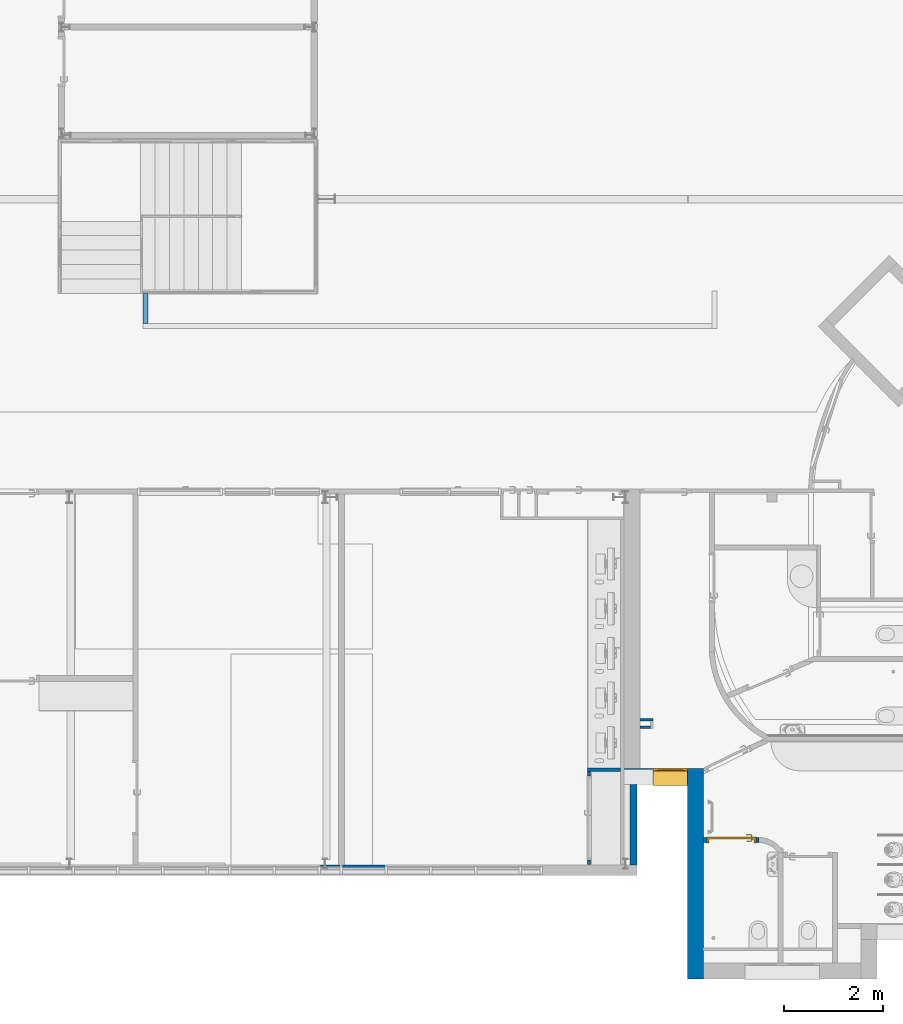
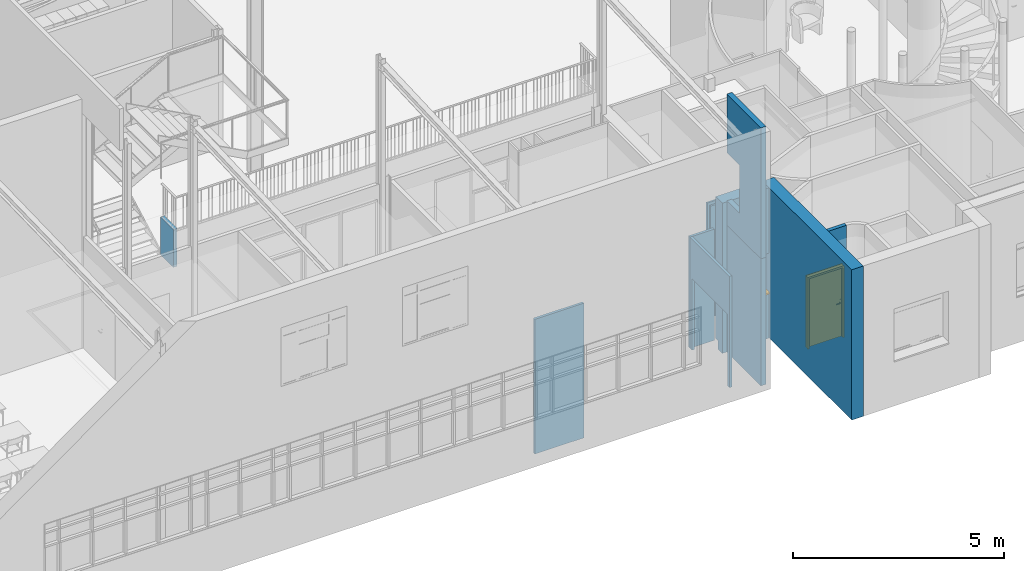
# One storey, part 40 of 137: 11 walls, 1 door, 1 window, 4 openings.
"""IFC2X3 building model written with IfcOpenShell, lengths in centimetres."""

from ifc_helpers import new_model, entity, si_unit, converted_unit, derived_unit, direction, frame, frame_2d, origin, place, context, subcontext, project, spatial, polyline, rectangle, outline, extrude, clip, bounded_halfspace, faceted_brep, source, transform, mapped, material, material_list, layer, layer_set, layer_usage, type_object, type_shapes, element, fill, save


model = new_model("IFC2X3")

# Units and contexts
model_context = context("Model", 3, precision=0.001, world=origin(), true_north=direction((6.12303176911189e-17, 1.0)))
body_context = subcontext(model_context, "Body", "Model", "MODEL_VIEW")
ifc_project = project(units=[si_unit("LENGTHUNIT", "METRE", prefix="CENTI"), si_unit("AREAUNIT", "SQUARE_METRE"), si_unit("VOLUMEUNIT", "CUBIC_METRE"), converted_unit("PLANEANGLEUNIT", "DEGREE", entity("IfcRatioMeasure", 0.0174532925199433), si_unit("PLANEANGLEUNIT", "RADIAN"), dimensions=[0, 0, 0, 0, 0, 0, 0]), si_unit("MASSUNIT", "GRAM", prefix="KILO"), si_unit("TIMEUNIT", "SECOND"), si_unit("FREQUENCYUNIT", "HERTZ"), si_unit("THERMODYNAMICTEMPERATUREUNIT", "DEGREE_CELSIUS"), derived_unit("THERMALTRANSMITTANCEUNIT", [(si_unit("MASSUNIT", "GRAM", prefix="KILO"), 1), (si_unit("THERMODYNAMICTEMPERATUREUNIT", "KELVIN"), -1), (si_unit("TIMEUNIT", "SECOND"), -3)]), derived_unit("VOLUMETRICFLOWRATEUNIT", [(si_unit("LENGTHUNIT", "METRE"), 3), (si_unit("TIMEUNIT", "SECOND"), -1)]), si_unit("ELECTRICCURRENTUNIT", "AMPERE"), si_unit("ELECTRICVOLTAGEUNIT", "VOLT"), si_unit("POWERUNIT", "WATT"), si_unit("FORCEUNIT", "NEWTON", prefix="KILO"), si_unit("ILLUMINANCEUNIT", "LUX"), si_unit("LUMINOUSFLUXUNIT", "LUMEN"), si_unit("LUMINOUSINTENSITYUNIT", "CANDELA"), derived_unit("USERDEFINED", [(si_unit("MASSUNIT", "GRAM", prefix="KILO"), -1), (si_unit("LENGTHUNIT", "METRE"), -2), (si_unit("TIMEUNIT", "SECOND"), 3), (si_unit("LUMINOUSFLUXUNIT", "LUMEN"), 1)]), derived_unit("LINEARVELOCITYUNIT", [(si_unit("LENGTHUNIT", "METRE"), 1), (si_unit("TIMEUNIT", "SECOND"), -1)]), si_unit("PRESSUREUNIT", "PASCAL"), derived_unit("USERDEFINED", [(si_unit("LENGTHUNIT", "METRE"), -2), (si_unit("MASSUNIT", "GRAM", prefix="KILO"), 1), (si_unit("TIMEUNIT", "SECOND"), -2)])], contexts=[model_context])

# Site, building, storey
site_placement = place(None, frame((8.62739174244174, -249.285249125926, 0.0)))
site = spatial("IfcSite", under=ifc_project, at=site_placement, Name="Default", CompositionType="ELEMENT")
building_placement = place(site_placement, origin())
building = spatial("IfcBuilding", under=site, at=building_placement, CompositionType="ELEMENT")
storey_placement = place(building_placement, origin())
storey = spatial("IfcBuildingStorey", under=building, at=storey_placement, Name="RDC", CompositionType="ELEMENT", Elevation=-8.82465566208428e-11)

# Wall
ifc_material_1 = material(Name="Maçonnerie - Enduit")
ifc_layer_1 = layer(ifc_material_1, 1.0)
ifc_material_2 = material(Name="Maçonnerie")
ifc_layer_2 = layer(ifc_material_2, 20.0)
ifc_material_3 = material(Name="Laine minérale")
ifc_layer_3 = layer(ifc_material_3, 10.0)
ifc_material_4 = material(Name="Plâtre")
ifc_layer_4 = layer(ifc_material_4, 1.0)
ifc_layer_set_1 = layer_set([ifc_layer_1, ifc_layer_2, ifc_layer_3, ifc_layer_4], Name="Mur de base:END 1 + PAR 20 + ISO 10 + PLA 1")
ifc_layer_usage_1 = layer_usage(ifc_layer_set_1, "AXIS2", "NEGATIVE", 16.0)
wall_type_1 = type_object("IfcWallType", Name="Mur de base:END 1 + PAR 20 + ISO 10 + PLA 1", PredefinedType="STANDARD", material=ifc_layer_set_1)
wall_1_placement = place(storey_placement, frame((2306.9048278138, -208.019791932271, -25.0), z_axis=(0.0, 0.0, 1.0), x_axis=(0.0, 1.0, 0.0)))
element("IfcWallStandardCase", 1, at=wall_1_placement, inside=storey, type_object=wall_type_1, material=ifc_layer_usage_1, Name="Mur de base:END 1 + PAR 20 + ISO 10 + PLA 1", ObjectType="Mur de base:END 1 + PAR 20 + ISO 10 + PLA 1", context=body_context, shape_type="SweptSolid", body=[
    extrude(rectangle(XDim=424.000000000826, YDim=31.9999999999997, at=frame_2d((212.000000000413, 1.68753899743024e-14), x_axis=(-1.0, 0.0))), origin(), (0.0, 0.0, 1.0), 434.999999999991),
])

# Wall, opening, window
ifc_layer_usage_2 = layer_usage(ifc_layer_set_1, "AXIS2", "NEGATIVE", 16.0)
wall_2_placement = place(storey_placement, frame((2290.9048278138, 199.980208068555, -25.0), z_axis=(0.0, 0.0, 1.0), x_axis=(-1.0, 0.0, 0.0)))
wall_2 = element("IfcWallStandardCase", 2, at=wall_2_placement, inside=storey, type_object=wall_type_1, material=ifc_layer_usage_2, Name="Mur de base:END 1 + PAR 20 + ISO 10 + PLA 1", ObjectType="Mur de base:END 1 + PAR 20 + ISO 10 + PLA 1", context=body_context, shape_type="Clipping", body=[
    clip(extrude(rectangle(XDim=128.00000000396, YDim=32.0, at=frame_2d((64.0000000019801, 0.0), x_axis=(-1.0, 0.0))), origin(), (0.0, 0.0, 1.0), 434.999999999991), bounded_halfspace(frame((128.0, -16.0, 25.0), z_axis=(0.0, 0.0, 1.0), x_axis=(-1.0, 0.0, 0.0)), True, frame((128.0, -16.0, 25.0)), polyline([(0.0, 0.0), (0.0, 11.0), (-128.0, 11.0), (-128.0, 0.0), (-32.0, 0.0), (0.0, 0.0)]))),
])
opening_1_placement = place(wall_2_placement, frame((70.0, 16.0, 131.0)))
opening_1 = element("IfcOpeningElement", 3, at=opening_1_placement, cuts=wall_2, Name="B_70x115:B_70x115:1", ObjectType="Opening", context=body_context, shape_type="SweptSolid", body=[
    extrude(rectangle(XDim=115.0, YDim=69.9999999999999, at=frame_2d((57.5, 35.0), x_axis=(1.0, 0.0))), frame((0.0, 0.0, 0.0), z_axis=(0.0, -1.0, 0.0), x_axis=(0.0, 0.0, 1.0)), (0.0, 0.0, 1.0), 32.0),
])
ifc_material_5 = material(Name="Verre")
window_style = type_object("IfcWindowStyle", Name="B_70x115", ConstructionType="NOTDEFINED", OperationType="NOTDEFINED", ParameterTakesPrecedence=False, Sizeable=False, material=ifc_material_5)
shared_shape_1 = source(origin(), body_context, "Body", "SweptSolid", [
    extrude(rectangle(XDim=51.9999999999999, YDim=3.0, at=frame_2d((0.0, -7.7715611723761e-16), x_axis=(1.0, 0.0))), frame((35.0, 2.5, 9.0)), (0.0, 0.0, 1.0), 96.9999999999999),
    extrude(outline(polyline([(-30.0, -52.4999999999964), (30.0, -52.4999999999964), (30.0, 52.4999999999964), (-30.0, 52.4999999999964), (-30.0, -52.4999999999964)]), holes=[polyline([(-26.0, 48.5), (26.0, 48.5), (26.0, -48.5), (-26.0, -48.5), (-26.0, 48.5)])]), frame((35.0, 4.5, 57.4999999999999), z_axis=(0.0, -1.0, 0.0), x_axis=(1.0, 0.0, 0.0)), (0.0, 0.0, 1.0), 4.0),
    extrude(outline(polyline([(-35.0, -57.4999999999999), (35.0, -57.4999999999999), (35.0, 57.4999999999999), (-35.0, 57.4999999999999), (-35.0, -57.4999999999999)]), holes=[polyline([(-30.0, 52.5), (30.0, 52.5), (30.0, -52.5), (-30.0, -52.5), (-30.0, 52.5)])]), frame((35.0, 5.0, 57.4999999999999), z_axis=(0.0, -1.0, 0.0), x_axis=(1.0, 0.0, 0.0)), (0.0, 0.0, 1.0), 4.99999999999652),
    extrude(outline(polyline([(-1.10957529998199, -9.83333333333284), (2.89042470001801, -9.83333333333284), (2.89042470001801, -9.33333333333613), (-0.609575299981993, -9.33333333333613), (-1.76336769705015, 19.166666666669), (-2.29833110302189, 19.166666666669), (-1.10957529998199, -9.83333333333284)])), frame((70.0, 24.1666666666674, 0.701668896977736), z_axis=(-1.0, 0.0, 0.0), x_axis=(0.0, 0.0, -1.0)), (0.0, 0.0, 1.0), 70.0),
])
type_shapes(window_style, [shared_shape_1])
window_placement = place(opening_1_placement, frame((-70.0, -32.0, 0.0)))
window = element("IfcWindow", 4, at=window_placement, inside=storey, type_object=window_style, material=ifc_material_5, Name="B_70x115:B_70x115", ObjectType="B_70x115", OverallHeight=115.0, OverallWidth=70.0000000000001, context=body_context, shape_type="MappedRepresentation", body=[
    mapped(shared_shape_1, transform((0.0, 0.0, 0.0), scale=1.0)),
])
fill(opening_1, window)

# Wall
ifc_material_6 = material(Name="Plâtre EXISTANT")
ifc_layer_5 = layer(ifc_material_6, 7.0)
ifc_layer_set_2 = layer_set([ifc_layer_5], Name="Mur de base:PLA EXISTANT 7")
ifc_layer_usage_3 = layer_usage(ifc_layer_set_2, "AXIS2", "NEGATIVE", 3.5)
wall_type_2 = type_object("IfcWallType", Name="Mur de base:PLA EXISTANT 7", PredefinedType="STANDARD", material=ifc_layer_set_2)
wall_3_placement = place(storey_placement, frame((1551.5, 18.4999999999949, 0.0)))
element("IfcWallStandardCase", 5, at=wall_3_placement, inside=storey, type_object=wall_type_2, material=ifc_layer_usage_3, Name="Mur de base:PLA EXISTANT 7", ObjectType="Mur de base:PLA EXISTANT 7", context=body_context, shape_type="SweptSolid", body=[
    extrude(rectangle(XDim=135.0, YDim=7.0, at=frame_2d((67.4999999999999, 0.0), x_axis=(-1.0, 0.0))), origin(), (0.0, 0.0, 1.0), 390.0),
])

# Wall, opening
ifc_material_7 = material(Name="Tôle/Doublage")
ifc_layer_6 = layer(ifc_material_7, 4.0)
ifc_layer_7 = layer(ifc_material_3, 8.0)
ifc_layer_8 = layer(ifc_material_4, 2.0)
ifc_layer_set_3 = layer_set([ifc_layer_6, ifc_layer_7, ifc_layer_8], Name="Mur de base:MET 4 + ISO 8 + PLA 2")
ifc_layer_usage_4 = layer_usage(ifc_layer_set_3, "AXIS2", "NEGATIVE", 7.0)
wall_type_3 = type_object("IfcWallType", Name="Mur de base:MET 4 + ISO 8 + PLA 2", PredefinedType="STANDARD", material=ifc_layer_set_3)
wall_4_placement = place(storey_placement, frame((2181.90482780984, 183.980208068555, -25.0), z_axis=(0.0, 0.0, 1.0), x_axis=(0.0, -1.0, 0.0)))
wall_4 = element("IfcWallStandardCase", 6, at=wall_4_placement, inside=storey, type_object=wall_type_3, material=ifc_layer_usage_4, Name="Mur de base:MET 4 + ISO 8 + PLA 2", ObjectType="Mur de base:MET 4 + ISO 8 + PLA 2", context=body_context, shape_type="SweptSolid", body=[
    extrude(rectangle(XDim=161.980208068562, YDim=14.0000000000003, at=frame_2d((80.9901040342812, 4.04121180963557e-14), x_axis=(-1.0, 0.0))), origin(), (0.0, 0.0, 1.0), 747.000000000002),
])
opening_2_placement = place(wall_4_placement, origin())
element("IfcOpeningElement", 7, at=opening_2_placement, cuts=wall_4, Name="Mur de base:MET 4 + ISO 8 + PLA 2", ObjectType="Opening", context=body_context, shape_type="SweptSolid", body=[
    extrude(rectangle(XDim=140.0, YDim=540.0, at=frame_2d((-4.9737991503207e-14, 0.0), x_axis=(1.0, 0.0))), frame((-210.0, -159.4, 508.0), z_axis=(0.0, 1.0, 0.0), x_axis=(0.0, 0.0, 1.0)), (0.0, 0.0, 1.0), 304.8),
])

# Walls
ifc_layer_usage_5 = layer_usage(ifc_layer_set_3, "AXIS2", "NEGATIVE", 7.0)
wall_5_placement = place(storey_placement, frame((2181.9048278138, 183.980208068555, -25.0), z_axis=(0.0, 0.0, 1.0), x_axis=(0.0, -1.0, 0.0)))
element("IfcWallStandardCase", 8, at=wall_5_placement, inside=storey, type_object=wall_type_3, material=ifc_layer_usage_5, Name="Mur de base:MET 4 + ISO 8 + PLA 2", ObjectType="Mur de base:MET 4 + ISO 8 + PLA 2", context=body_context, shape_type="SweptSolid", body=[
    extrude(rectangle(XDim=161.980208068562, YDim=14.0000000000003, at=frame_2d((80.9901040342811, 4.04121180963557e-14), x_axis=(-1.0, 0.0))), origin(), (0.0, 0.0, 1.0), 368.000000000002),
])
ifc_material_8 = material(Name="Mur par défaut")
ifc_layer_9 = layer(ifc_material_8, 5.0)
ifc_layer_set_4 = layer_set([ifc_layer_9], Name="Mur de base:Int. plâtre 50 mm")
ifc_layer_usage_6 = layer_usage(ifc_layer_set_4, "AXIS2", "NEGATIVE", 2.5)
wall_type_4 = type_object("IfcWallType", Name="Mur de base:Int. plâtre 50 mm", PredefinedType="STANDARD", material=ifc_layer_set_4)
wall_6_placement = place(storey_placement, frame((2194.90482780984, 313.480208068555, 0.0)))
element("IfcWallStandardCase", 9, at=wall_6_placement, inside=storey, type_object=wall_type_4, material=ifc_layer_usage_6, Name="Mur de base:Int. plâtre 50 mm", ObjectType="Mur de base:Int. plâtre 50 mm", context=body_context, shape_type="SweptSolid", body=[
    extrude(rectangle(XDim=26.0000000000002, YDim=4.99999999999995, at=frame_2d((13.0000000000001, 1.33226762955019e-15), x_axis=(-1.0, 0.0))), origin(), (0.0, 0.0, 1.0), 322.000000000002),
])
ifc_layer_usage_7 = layer_usage(ifc_layer_set_4, "AXIS2", "NEGATIVE", 2.5)
wall_7_placement = place(storey_placement, frame((2194.90482780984, 298.480208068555, 0.0)))
element("IfcWallStandardCase", 10, at=wall_7_placement, inside=storey, type_object=wall_type_4, material=ifc_layer_usage_7, Name="Mur de base:Int. plâtre 50 mm", ObjectType="Mur de base:Int. plâtre 50 mm", context=body_context, shape_type="SweptSolid", body=[
    extrude(rectangle(XDim=21.0, YDim=4.99999999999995, at=frame_2d((10.5, -9.32587340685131e-15), x_axis=(-1.0, 0.0))), origin(), (0.0, 0.0, 1.0), 322.000000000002),
])

# Wall, opening, door
ifc_layer_10 = layer(ifc_material_4, 10.0)
ifc_layer_set_5 = layer_set([ifc_layer_10], Name="Mur de base:PLA 10")
ifc_layer_usage_8 = layer_usage(ifc_layer_set_5, "AXIS2", "NEGATIVE", 5.0)
wall_type_5 = type_object("IfcWallType", Name="Mur de base:PLA 10", PredefinedType="STANDARD", material=ifc_layer_set_5)
wall_8_placement = place(storey_placement, frame((2435.08433593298, 71.9802081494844, 0.0), z_axis=(0.0, 0.0, 1.0), x_axis=(-1.0, 0.0, 0.0)))
wall_8 = element("IfcWallStandardCase", 11, at=wall_8_placement, inside=storey, type_object=wall_type_5, material=ifc_layer_usage_8, Name="Mur de base:PLA 10", ObjectType="Mur de base:PLA 10", context=body_context, shape_type="SweptSolid", body=[
    extrude(outline(polyline([(0.0, -5.0), (112.179508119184, -5.0), (112.179508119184, 5.0), (0.229698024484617, 5.0), (0.0, -5.0)])), origin(), (0.0, 0.0, 1.0), 322.000000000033),
])
opening_3_placement = place(wall_8_placement, frame((105.179508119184, 5.0, 0.0)))
opening_3 = element("IfcOpeningElement", 12, at=opening_3_placement, cuts=wall_8, Name="Simple(R)-bois_MU:93x204cm_MU:1", ObjectType="Opening", context=body_context, shape_type="SweptSolid", body=[
    extrude(rectangle(XDim=206.999999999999, YDim=98.9999999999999, at=frame_2d((103.499999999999, 49.5000000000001), x_axis=(1.0, 0.0))), frame((0.0, 0.0, 0.0), z_axis=(0.0, -1.0, 0.0), x_axis=(0.0, 0.0, 1.0)), (0.0, 0.0, 1.0), 10.0),
])
ifc_material_9 = material(Name="Porte-Poignée_MU")
ifc_material_10 = material(Name="Porte-Cadre_MU")
ifc_material_11 = material(Name="Porte Panneau_MU")
ifc_material_list_1 = material_list([ifc_material_9, ifc_material_10, ifc_material_11])
ifc_material_list_2 = material_list([ifc_material_9, ifc_material_10, ifc_material_11])
door_style = type_object("IfcDoorStyle", Name="93x204cm_MU", ConstructionType="NOTDEFINED", OperationType="SINGLE_SWING_RIGHT", ParameterTakesPrecedence=False, Sizeable=False, material=ifc_material_list_2)
shared_shape_2 = source(origin(), body_context, "Body", "Brep", [
    faceted_brep([(8.29747013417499, 3.69999999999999, 100.778044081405), (7.89999999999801, 3.69999999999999, 100.699999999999), (7.89999999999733, 3.69999999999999, 99.2999999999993), (8.2974701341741, 3.69999999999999, 99.2219559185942), (8.70252986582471, 3.69999999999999, 99.2219559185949), (9.10000000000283, 3.69999999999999, 99.3000000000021), (9.10000000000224, 3.69999999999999, 100.699999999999), (8.70252986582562, 3.69999999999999, 100.778044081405), (9.10000000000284, 5.94852045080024, 99.3000000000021), (9.10000000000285, 5.94852045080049, 100.699999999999), (8.70252986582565, 6.1131579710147, 100.778044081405), (10.0838906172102, 7.49451872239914, 100.778044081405), (9.91610938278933, 7.89957845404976, 100.778044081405), (8.29747013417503, 6.2809392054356, 100.778044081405), (19.0684749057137, 6.84673156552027, 100.778044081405), (19.3548953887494, 7.13315204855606, 100.778044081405), (18.5884689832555, 7.89957845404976, 100.778044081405), (18.4206877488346, 7.49451872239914, 100.778044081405), (7.89999999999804, 6.44557672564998, 100.699999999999), (7.89999999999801, 6.44557672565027, 99.2999999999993), (8.29747013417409, 6.28093920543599, 99.2219559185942), (9.91610938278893, 7.8995784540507, 99.2219559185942), (10.0838906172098, 7.49451872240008, 99.2219559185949), (8.70252986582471, 6.11315797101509, 99.2219559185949), (19.35489538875, 7.1331520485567, 99.2219559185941), (19.0684749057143, 6.84673156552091, 99.2219559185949), (18.420687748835, 7.49451872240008, 99.2219559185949), (18.5884689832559, 7.8995784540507, 99.2219559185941), (10.2485281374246, 7.09704858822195, 99.3000000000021), (10.2485281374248, 7.09704858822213, 100.699999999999), (9.75147186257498, 8.29704858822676, 100.699999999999), (9.75147186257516, 8.29704858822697, 99.2999999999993), (14.2522904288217, 7.09704858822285, 99.3000000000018), (18.2560502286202, 7.09704858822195, 99.3000000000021), (18.2560502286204, 7.09704858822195, 100.699999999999), (14.2522891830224, 7.09704858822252, 100.699999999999), (14.2522891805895, 7.71249275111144, 100.787811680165), (18.7531065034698, 8.29704858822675, 100.699999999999), (14.7600577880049, 8.29704858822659, 100.699999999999), (18.7531065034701, 8.29704858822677, 99.2999999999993), (13.7445206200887, 8.29704858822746, 99.2999999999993), (14.2522892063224, 7.71249274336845, 99.2121883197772), (18.787421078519, 6.56567773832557, 99.3000000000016), (19.635949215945, 7.41420587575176, 99.2999999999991), (19.6359492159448, 7.4142058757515, 100.699999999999), (18.7874210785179, 6.5656777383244, 100.699999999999)], [[[0, 1, 2, 3, 4, 5, 6, 7]], [[6, 5, 8, 9]], [[9, 10, 7, 6]], [[10, 11, 12, 13, 0, 7]], [[14, 15, 16, 17]], [[13, 18, 1, 0]], [[2, 1, 18, 19]], [[19, 20, 3, 2]], [[20, 21, 22, 23, 4, 3]], [[24, 25, 26, 27]], [[23, 8, 5, 4]], [[9, 8, 28, 29]], [[29, 11, 10, 9]], [[12, 30, 18, 13]], [[19, 18, 30, 31]], [[31, 21, 20, 19]], [[22, 28, 8, 23]], [[29, 28, 32, 33, 34, 35]], [[11, 35, 36]], [[16, 37, 38]], [[30, 12, 38]], [[38, 12, 36]], [[36, 35, 17]], [[17, 16, 36]], [[35, 11, 29]], [[34, 17, 35]], [[11, 36, 12]], [[38, 36, 16]], [[31, 30, 38, 37, 39, 40]], [[40, 41, 21]], [[41, 40, 27]], [[21, 31, 40]], [[39, 27, 40]], [[41, 32, 22]], [[22, 21, 41]], [[26, 32, 41]], [[28, 22, 32]], [[32, 26, 33]], [[26, 41, 27]], [[42, 25, 24, 43, 44, 15, 14, 45]], [[34, 33, 42, 45]], [[45, 14, 17, 34]], [[15, 44, 37, 16]], [[39, 37, 44, 43]], [[43, 24, 27, 39]], [[25, 42, 33, 26]]]),
    faceted_brep([(8.29747013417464, -1.30000000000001, 100.778044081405), (8.70252986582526, -1.30000000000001, 100.778044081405), (9.10000000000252, -1.30000000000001, 100.699999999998), (9.10000000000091, -1.30000000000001, 99.3000000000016), (8.70252986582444, -1.30000000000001, 99.2219559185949), (8.29747013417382, -1.30000000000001, 99.2219559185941), (7.8999999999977, -1.30000000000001, 99.2999999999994), (7.89999999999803, -1.30000000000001, 100.699999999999), (7.89999999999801, -4.06509507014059, 100.699999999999), (8.29747013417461, -3.90045754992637, 100.778044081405), (9.90235851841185, -5.50534593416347, 100.778044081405), (10.0701397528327, -5.10028620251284, 100.778044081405), (8.70252986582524, -3.73267631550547, 100.778044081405), (19.3521810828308, -4.73891952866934, 100.778044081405), (19.0657605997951, -4.4524990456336, 100.778044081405), (18.4179734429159, -5.10028620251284, 100.778044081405), (18.5857546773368, -5.50534593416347, 100.778044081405), (9.10000000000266, -3.56803879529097, 100.699999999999), (9.10000000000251, -3.56803879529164, 99.3000000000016), (8.70252986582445, -3.7326763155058, 99.2219559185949), (10.0701397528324, -5.10028620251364, 99.2219559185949), (9.90235851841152, -5.50534593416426, 99.2219559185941), (8.29747013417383, -3.9004575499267, 99.2219559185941), (19.0657605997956, -4.45249904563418, 99.2219559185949), (19.3521810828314, -4.73891952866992, 99.2219559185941), (18.5857546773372, -5.50534593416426, 99.2219559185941), (18.4179734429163, -5.10028620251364, 99.2219559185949), (7.89999999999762, -4.06509507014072, 99.2999999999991), (9.73772099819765, -5.90281606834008, 100.699999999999), (10.2347772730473, -4.70281606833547, 100.699999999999), (10.2347772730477, -4.70281606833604, 99.3000000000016), (9.73772099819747, -5.90281606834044, 99.2999999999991), (13.7307697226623, -5.90281606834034, 100.699999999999), (14.2440566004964, -5.31828027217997, 100.787811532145), (18.7503921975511, -5.90281606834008, 100.699999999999), (14.2440565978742, -4.70281606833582, 100.699999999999), (18.2533359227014, -4.70281606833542, 100.699999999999), (18.2533359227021, -4.70281606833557, 99.3000000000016), (14.2440563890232, -4.70281606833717, 99.3000000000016), (14.2440565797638, -5.31828027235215, 99.2121884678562), (18.7503921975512, -5.90281606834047, 99.2999999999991), (14.7573433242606, -5.90281606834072, 99.2999999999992), (18.7847067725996, -4.1714452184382, 100.699999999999), (19.6332349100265, -5.01997335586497, 100.699999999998), (19.633234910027, -5.01997335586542, 99.2999999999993), (18.7847067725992, -4.17144521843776, 99.3000000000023)], [[[0, 1, 2, 3, 4, 5, 6, 7]], [[8, 9, 0, 7]], [[9, 10, 11, 12, 1, 0]], [[13, 14, 15, 16]], [[12, 17, 2, 1]], [[3, 2, 17, 18]], [[18, 19, 4, 3]], [[19, 20, 21, 22, 5, 4]], [[23, 24, 25, 26]], [[22, 27, 6, 5]], [[7, 6, 27, 8]], [[28, 10, 9, 8]], [[11, 29, 17, 12]], [[18, 17, 29, 30]], [[30, 20, 19, 18]], [[21, 31, 27, 22]], [[8, 27, 31, 28]], [[32, 33, 10]], [[33, 32, 16]], [[10, 28, 32]], [[34, 16, 32]], [[33, 35, 11]], [[11, 10, 33]], [[15, 35, 33]], [[29, 11, 35]], [[35, 15, 36]], [[15, 33, 16]], [[30, 29, 35, 36, 37, 38]], [[20, 38, 39]], [[25, 40, 41]], [[31, 21, 41]], [[41, 21, 39]], [[39, 38, 26]], [[26, 25, 39]], [[38, 20, 30]], [[37, 26, 38]], [[20, 39, 21]], [[41, 39, 25]], [[28, 31, 41, 40, 34, 32]], [[42, 14, 13, 43, 44, 24, 23, 45]], [[43, 13, 16, 34]], [[14, 42, 36, 15]], [[37, 36, 42, 45]], [[45, 23, 26, 37]], [[24, 44, 40, 25]], [[34, 40, 44, 43]]]),
    faceted_brep([(9.53527618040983, 3.19999999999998, 86.6003983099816), (10.4999999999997, 3.19999999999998, 87.0), (10.4999999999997, 3.19999999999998, 108.0), (9.53527618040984, 3.19999999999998, 108.399601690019), (8.49999999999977, 3.19999999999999, 108.535898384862), (7.46472381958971, 3.19999999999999, 108.399601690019), (6.49999999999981, 3.19999999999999, 108.0), (6.49999999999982, 3.19999999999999, 87.0), (7.4647238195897, 3.19999999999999, 86.6003983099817), (8.49999999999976, 3.19999999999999, 86.4641016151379), (9.53527618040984, 3.69999999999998, 108.399601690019), (10.4999999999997, 3.69999999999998, 108.0), (10.4999999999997, 3.69999999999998, 87.0), (9.53527618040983, 3.69999999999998, 86.6003983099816), (8.49999999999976, 3.69999999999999, 86.4641016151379), (7.4647238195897, 3.69999999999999, 86.6003983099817), (6.49999999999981, 3.69999999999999, 87.0), (6.49999999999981, 3.69999999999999, 108.0), (7.46472381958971, 3.69999999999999, 108.399601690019), (8.49999999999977, 3.69999999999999, 108.535898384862)], [[[0, 1, 2, 3, 4, 5, 6, 7, 8, 9]], [[10, 11, 12, 13, 14, 15, 16, 17, 18, 19]], [[11, 10, 3, 2]], [[3, 10, 19, 4]], [[19, 18, 5, 4]], [[18, 17, 6, 5]], [[7, 6, 17, 16]], [[16, 15, 8, 7]], [[8, 15, 14, 9]], [[14, 13, 0, 9]], [[13, 12, 1, 0]], [[2, 1, 12, 11]]]),
    faceted_brep([(9.53527618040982, -1.30000000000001, 86.6003983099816), (10.4999999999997, -1.30000000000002, 87.0), (10.4999999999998, -1.30000000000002, 108.0), (9.53527618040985, -1.30000000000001, 108.399601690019), (8.49999999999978, -1.30000000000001, 108.535898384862), (7.46472381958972, -1.30000000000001, 108.399601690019), (6.49999999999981, -1.3, 108.0), (6.49999999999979, -1.3, 87.0), (7.46472381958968, -1.30000000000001, 86.6003983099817), (8.49999999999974, -1.30000000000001, 86.4641016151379), (9.53527618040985, -0.800000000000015, 108.399601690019), (10.4999999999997, -0.800000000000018, 108.0), (10.4999999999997, -0.800000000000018, 87.0), (9.53527618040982, -0.800000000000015, 86.6003983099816), (8.49999999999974, -0.800000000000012, 86.4641016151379), (7.46472381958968, -0.800000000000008, 86.6003983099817), (6.49999999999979, -0.800000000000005, 87.0), (6.49999999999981, -0.800000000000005, 108.0), (7.46472381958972, -0.800000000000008, 108.399601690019), (8.49999999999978, -0.800000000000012, 108.535898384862)], [[[0, 1, 2, 3, 4, 5, 6, 7, 8, 9]], [[10, 11, 12, 13, 14, 15, 16, 17, 18, 19]], [[16, 15, 8, 7]], [[8, 15, 14, 9]], [[14, 13, 0, 9]], [[13, 12, 1, 0]], [[2, 1, 12, 11]], [[11, 10, 3, 2]], [[3, 10, 19, 4]], [[19, 18, 5, 4]], [[18, 17, 6, 5]], [[7, 6, 17, 16]]]),
    faceted_brep([(0.0, 0.0, 0.0), (0.0, 10.0, 0.0), (-1.0, 10.0, 0.0), (-1.0, 10.8000000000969, 0.0), (4.0, 10.8000000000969, 0.0), (4.0, 3.2, 0.0), (3.0, 3.2, 0.0), (3.0, -0.799999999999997, 0.0), (-1.0, -0.799999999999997, 0.0), (-1.0, 0.0, 0.0), (0.0, 0.0, 207.0), (0.0, 10.0, 207.0), (99.0, 10.0, 207.0), (99.0, 10.0, 0.0), (100.0, 10.0, 0.0), (100.0, 10.0, 208.0), (-1.0, 10.0, 208.0), (-1.0, 10.8000000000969, 208.0), (100.0, 10.8000000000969, 208.0), (100.0, 10.8000000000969, 0.0), (95.0, 10.8000000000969, 0.0), (95.0, 10.8000000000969, 203.0), (4.0, 10.8000000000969, 203.0), (4.0, 3.2, 203.0), (95.0, 3.2, 203.0), (95.0, 3.2, 0.0), (96.0, 3.2, 0.0), (96.0, 3.2, 204.0), (3.0, 3.2, 204.0), (3.0, -0.799999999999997, 204.0), (96.0, -0.799999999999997, 204.0), (96.0, -0.799999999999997, 0.0), (100.0, -0.799999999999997, 0.0), (100.0, -0.799999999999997, 208.0), (-1.0, -0.799999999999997, 208.0), (-1.0, 0.0, 208.0), (100.0, 0.0, 208.0), (100.0, 0.0, 0.0), (99.0, 0.0, 0.0), (99.0, 0.0, 207.0)], [[[0, 1, 2, 3, 4, 5, 6, 7, 8, 9]], [[1, 0, 10, 11]], [[2, 1, 11, 12, 13, 14, 15, 16]], [[3, 2, 16, 17]], [[4, 3, 17, 18, 19, 20, 21, 22]], [[5, 4, 22, 23]], [[6, 5, 23, 24, 25, 26, 27, 28]], [[7, 6, 28, 29]], [[8, 7, 29, 30, 31, 32, 33, 34]], [[9, 8, 34, 35]], [[0, 9, 35, 36, 37, 38, 39, 10]], [[12, 39, 38, 13]], [[38, 37, 32, 31, 26, 25, 20, 19, 14, 13]], [[18, 15, 14, 19]], [[24, 21, 20, 25]], [[30, 27, 26, 31]], [[36, 33, 32, 37]], [[11, 10, 39, 12]], [[17, 16, 15, 18]], [[23, 22, 21, 24]], [[29, 28, 27, 30]], [[35, 34, 33, 36]]]),
    faceted_brep([(3.0, -0.799999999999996, 204.0), (3.0, -0.799999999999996, 0.0), (96.0, -0.799999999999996, 0.0), (96.0, -0.799999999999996, 204.0), (3.0, 3.2, 204.0), (96.0, 3.2, 204.0), (96.0, 3.2, 0.0), (3.0, 3.2, 0.0)], [[[0, 1, 2, 3]], [[4, 5, 6, 7]], [[1, 0, 4, 7]], [[2, 1, 7, 6]], [[3, 2, 6, 5]], [[0, 3, 5, 4]]]),
])
type_shapes(door_style, [shared_shape_2])
door_placement = place(opening_3_placement, frame((-99.0, -10.0, 0.0)))
door = element("IfcDoor", 13, at=door_placement, inside=storey, type_object=door_style, material=ifc_material_list_1, Name="Simple(R)-bois_MU:93x204cm_MU", ObjectType="93x204cm_MU", OverallHeight=206.999999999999, OverallWidth=99.0, context=body_context, shape_type="MappedRepresentation", body=[
    mapped(shared_shape_2, transform((0.0, 0.0, 0.0), scale=1.0)),
])
fill(opening_3, door)

# Wall
ifc_layer_11 = layer(ifc_material_4, 7.0)
ifc_layer_set_6 = layer_set([ifc_layer_11], Name="Mur de base:PLA 7")
ifc_layer_usage_9 = layer_usage(ifc_layer_set_6, "AXIS2", "NEGATIVE", 3.5)
wall_type_6 = type_object("IfcWallType", Name="Mur de base:PLA 7", PredefinedType="STANDARD", material=ifc_layer_set_6)
wall_9_placement = place(storey_placement, frame((2155.90482780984, 213.298037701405, 0.0), z_axis=(0.0, 0.0, 1.0), x_axis=(-1.0, 0.0, 0.0)))
element("IfcWallStandardCase", 14, at=wall_9_placement, inside=storey, type_object=wall_type_6, material=ifc_layer_usage_9, Name="Mur de base:PLA 7", ObjectType="Mur de base:PLA 7", context=body_context, shape_type="Clipping", body=[
    clip(extrude(rectangle(XDim=67.0000000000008, YDim=6.99999999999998, at=frame_2d((33.5000000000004, 0.0), x_axis=(-1.0, 0.0))), origin(), (0.0, 0.0, 1.0), 322.000000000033), bounded_halfspace(frame((0.0, -3.50000000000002, 322.0), z_axis=(0.0, 0.0, -1.0), x_axis=(1.0, 0.0, 0.0)), True, frame((0.0, -3.50000000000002, 322.0)), polyline([(0.0, 0.0), (67.0, 0.0), (67.0, 7.0), (60.0, 7.0), (0.0, 7.0), (0.0, 0.0)]))),
])

# Wall, opening
ifc_layer_usage_10 = layer_usage(ifc_layer_set_6, "AXIS2", "NEGATIVE", 3.5)
wall_10_placement = place(storey_placement, frame((2092.40482780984, 209.798037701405, 0.0), z_axis=(0.0, 0.0, 1.0), x_axis=(0.0, -1.0, 0.0)))
wall_10 = element("IfcWallStandardCase", 15, at=wall_10_placement, inside=storey, type_object=wall_type_6, material=ifc_layer_usage_10, Name="Mur de base:PLA 7", ObjectType="Mur de base:PLA 7", context=body_context, shape_type="Clipping", body=[
    clip(extrude(rectangle(XDim=187.698037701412, YDim=7.00000000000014, at=frame_2d((93.849018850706, -2.44249065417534e-15), x_axis=(-1.0, 0.0))), origin(), (0.0, 0.0, 1.0), 322.000000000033), bounded_halfspace(frame((0.0, -3.50000000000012, 322.0), z_axis=(0.0, 0.0, -1.0), x_axis=(0.0, -1.0, 0.0)), True, frame((0.0, -3.50000000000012, 322.0)), polyline([(0.0, 0.0), (187.698037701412, 0.0), (187.698037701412, 7.0), (0.0, 7.0), (0.0, 0.0)]))),
])
opening_4_placement = place(wall_10_placement, frame((178.349018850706, 3.4999999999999, 0.0)))
element("IfcOpeningElement", 16, at=opening_4_placement, cuts=wall_10, Name="Double(R)_bois_mu:163 x 204 cm:1", ObjectType="Opening", context=body_context, shape_type="SweptSolid", body=[
    extrude(rectangle(XDim=206.999999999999, YDim=169.0, at=frame_2d((103.499999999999, 84.4999999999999), x_axis=(1.0, 0.0))), frame((0.0, 0.0, 0.0), z_axis=(0.0, -1.0, 0.0), x_axis=(0.0, 0.0, 1.0)), (0.0, 0.0, 1.0), 7.0),
])

# Wall
ifc_layer_12 = layer(ifc_material_8, 10.0)
ifc_layer_set_7 = layer_set([ifc_layer_12], Name="Mur de base:Int. PLA 10cm_MU")
ifc_layer_usage_11 = layer_usage(ifc_layer_set_7, "AXIS2", "NEGATIVE", 5.0)
wall_type_7 = type_object("IfcWallType", Name="Mur de base:Int. PLA 10cm_MU", PredefinedType="STANDARD", material=ifc_layer_set_7)
wall_11_placement = place(storey_placement, frame((1199.90311868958, 1111.98020806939, 0.0), z_axis=(0.0, 0.0, 1.0), x_axis=(0.0, 1.0, 0.0)))
element("IfcWallStandardCase", 17, at=wall_11_placement, inside=storey, type_object=wall_type_7, material=ifc_layer_usage_11, Name="Mur de base:Int. PLA 10cm_MU", ObjectType="Mur de base:Int. PLA 10cm_MU", context=body_context, shape_type="SweptSolid", body=[
    extrude(rectangle(XDim=60.5000000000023, YDim=9.99999999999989, at=frame_2d((30.2500000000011, 0.0), x_axis=(-1.0, 0.0))), origin(), (0.0, 0.0, 1.0), 110.0),
])

save(model, "model.ifc")
